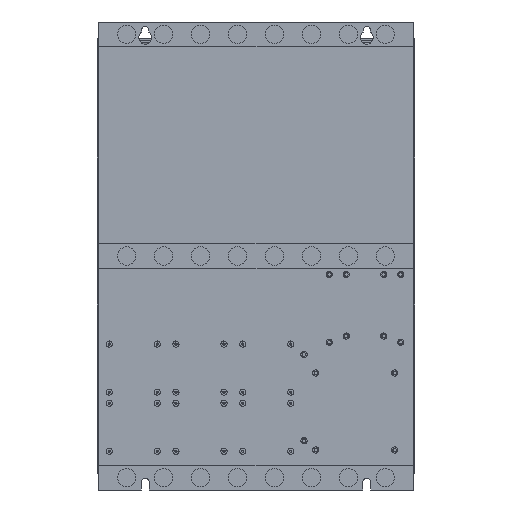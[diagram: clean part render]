
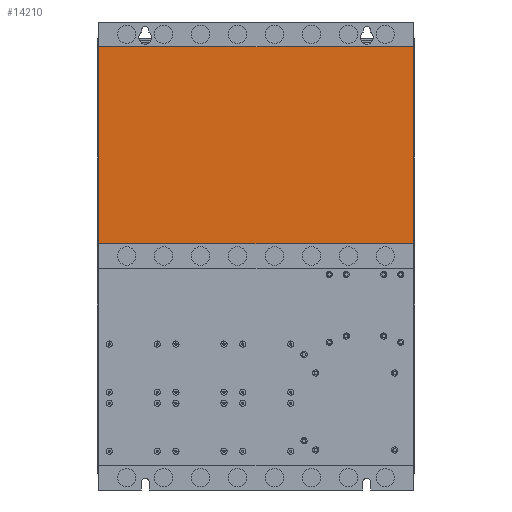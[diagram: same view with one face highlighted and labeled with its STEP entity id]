
A CAD part, front view. The second image highlights one B-rep face of the part: STEP entity #14210.
In plain terms, the highlighted planar face has unit normal (0, -1, 0).
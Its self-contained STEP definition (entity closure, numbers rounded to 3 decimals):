
#17=DIRECTION('',(-1.,0.,0.));
#18=VECTOR('',#17,510.);
#19=CARTESIAN_POINT('',(255.,0.,20.));
#20=LINE('',#19,#18);
#21=DIRECTION('',(0.,0.,1.));
#22=VECTOR('',#21,320.);
#23=CARTESIAN_POINT('',(-255.,0.,20.));
#24=LINE('',#23,#22);
#25=DIRECTION('',(1.,0.,0.));
#26=VECTOR('',#25,510.);
#27=CARTESIAN_POINT('',(-255.,0.,340.));
#28=LINE('',#27,#26);
#29=DIRECTION('',(0.,0.,-1.));
#30=VECTOR('',#29,320.);
#31=CARTESIAN_POINT('',(255.,0.,340.));
#32=LINE('',#31,#30);
#9691=CARTESIAN_POINT('',(-255.,0.,340.));
#9692=CARTESIAN_POINT('',(255.,0.,340.));
#9693=VERTEX_POINT('',#9691);
#9694=VERTEX_POINT('',#9692);
#9751=CARTESIAN_POINT('',(-255.,0.,20.));
#9752=CARTESIAN_POINT('',(255.,0.,20.));
#9753=VERTEX_POINT('',#9751);
#9754=VERTEX_POINT('',#9752);
#14195=CARTESIAN_POINT('',(0.,0.,0.));
#14196=DIRECTION('',(0.,1.,0.));
#14197=DIRECTION('',(1.,0.,0.));
#14198=AXIS2_PLACEMENT_3D('',#14195,#14196,#14197);
#14199=PLANE('',#14198);
#14201=ORIENTED_EDGE('',*,*,#14200,.T.);
#14203=ORIENTED_EDGE('',*,*,#14202,.T.);
#14205=ORIENTED_EDGE('',*,*,#14204,.T.);
#14207=ORIENTED_EDGE('',*,*,#14206,.T.);
#14208=EDGE_LOOP('',(#14201,#14203,#14205,#14207));
#14209=FACE_OUTER_BOUND('',#14208,.F.);
#14210=ADVANCED_FACE('',(#14209),#14199,.F.);
#14200=EDGE_CURVE('',#9754,#9753,#20,.T.);
#14202=EDGE_CURVE('',#9753,#9693,#24,.T.);
#14204=EDGE_CURVE('',#9693,#9694,#28,.T.);
#14206=EDGE_CURVE('',#9694,#9754,#32,.T.);
